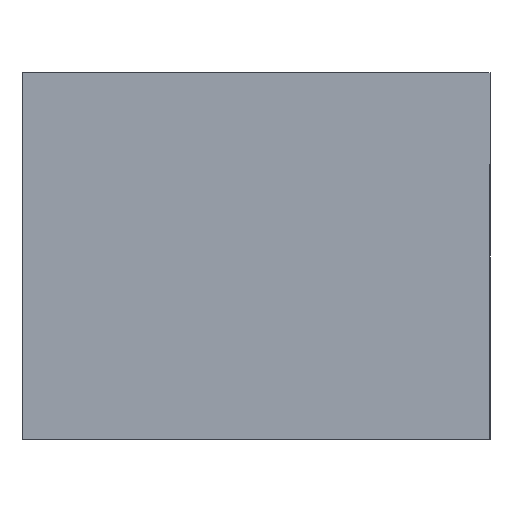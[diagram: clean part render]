
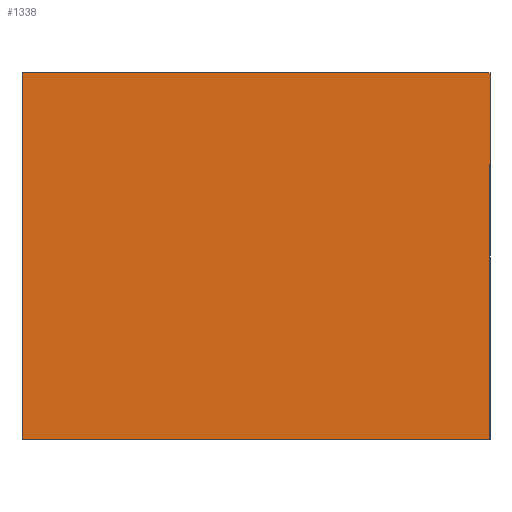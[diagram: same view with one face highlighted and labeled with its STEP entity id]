
A CAD part, front view. The second image highlights one B-rep face of the part: STEP entity #1338.
In plain terms, the highlighted planar face has unit normal (0, -1, 0).
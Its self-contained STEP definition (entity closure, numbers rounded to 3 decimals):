
#148 = CARTESIAN_POINT ( 'NONE',  ( -115., 0., -90. ) ) ;
#156 = DIRECTION ( 'NONE',  ( 1., 0., 0. ) ) ;
#165 = DIRECTION ( 'NONE',  ( 0., 0., 1. ) ) ;
#196 = CARTESIAN_POINT ( 'NONE',  ( -115., 0., 90. ) ) ;
#213 = VECTOR ( 'NONE', #156, 1000. ) ;
#314 = CARTESIAN_POINT ( 'NONE',  ( -115., 0., -90. ) ) ;
#317 = VECTOR ( 'NONE', #165, 1000. ) ;
#352 = VERTEX_POINT ( 'NONE', #1540 ) ;
#367 = LINE ( 'NONE', #314, #317 ) ;
#430 = CARTESIAN_POINT ( 'NONE',  ( -115., 0., -90. ) ) ;
#467 = DIRECTION ( 'NONE',  ( -1., 0., 0. ) ) ;
#561 = DIRECTION ( 'NONE',  ( 0., 0., 1. ) ) ;
#567 = DIRECTION ( 'NONE',  ( 0., 1., 0. ) ) ;
#605 = PLANE ( 'NONE',  #2136 ) ;
#633 = VECTOR ( 'NONE', #467, 1000. ) ;
#658 = CARTESIAN_POINT ( 'NONE',  ( 115., 0., -90. ) ) ;
#753 = CARTESIAN_POINT ( 'NONE',  ( 0., 0., 0. ) ) ;
#839 = EDGE_CURVE ( 'NONE', #1256, #352, #367, .T. ) ;
#866 = EDGE_LOOP ( 'NONE', ( #2021, #2055, #1971, #1995 ) ) ;
#933 = LINE ( 'NONE', #2097, #1907 ) ;
#1071 = CARTESIAN_POINT ( 'NONE',  ( 115., 0., 90. ) ) ;
#1256 = VERTEX_POINT ( 'NONE', #430 ) ;
#1338 = ADVANCED_FACE ( 'NONE', ( #2251 ), #605, .F. ) ;
#1460 = DIRECTION ( 'NONE',  ( 0., 0., -1. ) ) ;
#1540 = CARTESIAN_POINT ( 'NONE',  ( -115., 0., 90. ) ) ;
#1670 = LINE ( 'NONE', #196, #213 ) ;
#1716 = EDGE_CURVE ( 'NONE', #352, #2182, #1670, .T. ) ;
#1841 = VERTEX_POINT ( 'NONE', #658 ) ;
#1907 = VECTOR ( 'NONE', #1460, 1000. ) ;
#1939 = EDGE_CURVE ( 'NONE', #2182, #1841, #933, .T. ) ;
#1971 = ORIENTED_EDGE ( 'NONE', *, *, #839, .F. ) ;
#1995 = ORIENTED_EDGE ( 'NONE', *, *, #2098, .F. ) ;
#2021 = ORIENTED_EDGE ( 'NONE', *, *, #1939, .F. ) ;
#2055 = ORIENTED_EDGE ( 'NONE', *, *, #1716, .F. ) ;
#2092 = LINE ( 'NONE', #148, #633 ) ;
#2097 = CARTESIAN_POINT ( 'NONE',  ( 115., 0., -90. ) ) ;
#2098 = EDGE_CURVE ( 'NONE', #1841, #1256, #2092, .T. ) ;
#2136 = AXIS2_PLACEMENT_3D ( 'NONE', #753, #567, #561 ) ;
#2182 = VERTEX_POINT ( 'NONE', #1071 ) ;
#2251 = FACE_OUTER_BOUND ( 'NONE', #866, .T. ) ;
